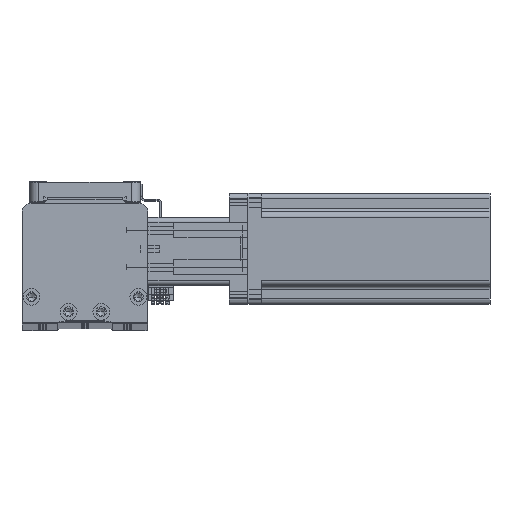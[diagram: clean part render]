
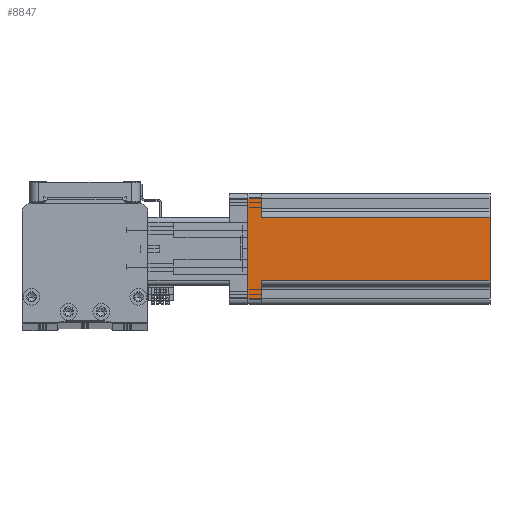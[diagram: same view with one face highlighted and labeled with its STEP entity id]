
A CAD part, top view. The second image highlights one B-rep face of the part: STEP entity #8847.
In plain terms, the highlighted planar face has unit normal (0, 0, 1) as drawn and (1, 0, 0) by its records, which use the part's own axes.
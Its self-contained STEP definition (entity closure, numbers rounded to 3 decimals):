
#1213 = CARTESIAN_POINT ( 'NONE',  ( 30., -30., 0. ) ) ;
#3141 = VECTOR ( 'NONE', #49851, 1000. ) ;
#3298 = CARTESIAN_POINT ( 'NONE',  ( 30., -30., 7.5 ) ) ;
#4570 = VECTOR ( 'NONE', #19850, 1000. ) ;
#4584 = CARTESIAN_POINT ( 'NONE',  ( 30., -27., 130.7 ) ) ;
#4736 = CARTESIAN_POINT ( 'NONE',  ( 30., 27., 7.5 ) ) ;
#7143 = VERTEX_POINT ( 'NONE', #32134 ) ;
#7639 = DIRECTION ( 'NONE',  ( 0., 0., 1. ) ) ;
#8506 = CARTESIAN_POINT ( 'NONE',  ( 30., 17., 130.7 ) ) ;
#8847 = ADVANCED_FACE ( 'NONE', ( #52300 ), #43239, .F. ) ;
#8853 = DIRECTION ( 'NONE',  ( 0., 0., -1. ) ) ;
#8953 = LINE ( 'NONE', #33434, #28713 ) ;
#9736 = EDGE_CURVE ( 'NONE', #7143, #10325, #43492, .T. ) ;
#10138 = VECTOR ( 'NONE', #22079, 1000. ) ;
#10325 = VERTEX_POINT ( 'NONE', #44583 ) ;
#11851 = ORIENTED_EDGE ( 'NONE', *, *, #19253, .T. ) ;
#12062 = ORIENTED_EDGE ( 'NONE', *, *, #54700, .F. ) ;
#13853 = ORIENTED_EDGE ( 'NONE', *, *, #9736, .T. ) ;
#14100 = CARTESIAN_POINT ( 'NONE',  ( 30., -30., 130.7 ) ) ;
#15612 = CARTESIAN_POINT ( 'NONE',  ( 30., 30., 7.5 ) ) ;
#15918 = CARTESIAN_POINT ( 'NONE',  ( 30., 17., 130.7 ) ) ;
#18335 = DIRECTION ( 'NONE',  ( 0., 0., 1. ) ) ;
#18526 = ORIENTED_EDGE ( 'NONE', *, *, #41191, .T. ) ;
#19253 = EDGE_CURVE ( 'NONE', #40033, #36970, #46671, .T. ) ;
#19850 = DIRECTION ( 'NONE',  ( 0., 1., 0. ) ) ;
#20674 = ORIENTED_EDGE ( 'NONE', *, *, #54060, .T. ) ;
#21023 = VECTOR ( 'NONE', #32821, 1000. ) ;
#22079 = DIRECTION ( 'NONE',  ( 0., 1., 0. ) ) ;
#24572 = CARTESIAN_POINT ( 'NONE',  ( 30., 27., 130.7 ) ) ;
#25284 = VECTOR ( 'NONE', #8853, 1000. ) ;
#25805 = ORIENTED_EDGE ( 'NONE', *, *, #31606, .F. ) ;
#26501 = DIRECTION ( 'NONE',  ( 0., 1., 0. ) ) ;
#27016 = LINE ( 'NONE', #15612, #4570 ) ;
#28713 = VECTOR ( 'NONE', #37701, 1000. ) ;
#31015 = ORIENTED_EDGE ( 'NONE', *, *, #54629, .T. ) ;
#31606 = EDGE_CURVE ( 'NONE', #44631, #36970, #27016, .T. ) ;
#32134 = CARTESIAN_POINT ( 'NONE',  ( 30., -17., 7.5 ) ) ;
#32632 = VERTEX_POINT ( 'NONE', #33110 ) ;
#32821 = DIRECTION ( 'NONE',  ( 0., -1., 0. ) ) ;
#33110 = CARTESIAN_POINT ( 'NONE',  ( 30., -17., 130.7 ) ) ;
#33434 = CARTESIAN_POINT ( 'NONE',  ( 30., -17., 7.5 ) ) ;
#34450 = CARTESIAN_POINT ( 'NONE',  ( 30., -27., 0. ) ) ;
#36323 = VERTEX_POINT ( 'NONE', #8506 ) ;
#36793 = AXIS2_PLACEMENT_3D ( 'NONE', #14100, #43606, #18335 ) ;
#36938 = LINE ( 'NONE', #1213, #48154 ) ;
#36970 = VERTEX_POINT ( 'NONE', #4736 ) ;
#37456 = CARTESIAN_POINT ( 'NONE',  ( 30., 27., 0. ) ) ;
#37701 = DIRECTION ( 'NONE',  ( 0., 0., -1. ) ) ;
#39847 = CARTESIAN_POINT ( 'NONE',  ( 30., 17., 7.5 ) ) ;
#40033 = VERTEX_POINT ( 'NONE', #37456 ) ;
#41191 = EDGE_CURVE ( 'NONE', #44631, #36323, #45140, .T. ) ;
#42500 = VECTOR ( 'NONE', #7639, 1000. ) ;
#43239 = PLANE ( 'NONE',  #36793 ) ;
#43330 = VERTEX_POINT ( 'NONE', #34450 ) ;
#43344 = ORIENTED_EDGE ( 'NONE', *, *, #50538, .T. ) ;
#43492 = LINE ( 'NONE', #3298, #21023 ) ;
#43606 = DIRECTION ( 'NONE',  ( -1., 0., 0. ) ) ;
#44231 = EDGE_LOOP ( 'NONE', ( #12062, #20674, #13853, #31015, #43344, #11851, #25805, #18526 ) ) ;
#44583 = CARTESIAN_POINT ( 'NONE',  ( 30., -27., 7.5 ) ) ;
#44631 = VERTEX_POINT ( 'NONE', #39847 ) ;
#45140 = LINE ( 'NONE', #15918, #42500 ) ;
#46671 = LINE ( 'NONE', #24572, #3141 ) ;
#47338 = CARTESIAN_POINT ( 'NONE',  ( 30., -30., 130.7 ) ) ;
#47731 = LINE ( 'NONE', #4584, #25284 ) ;
#48154 = VECTOR ( 'NONE', #26501, 1000. ) ;
#49686 = LINE ( 'NONE', #47338, #10138 ) ;
#49851 = DIRECTION ( 'NONE',  ( 0., 0., 1. ) ) ;
#50538 = EDGE_CURVE ( 'NONE', #43330, #40033, #36938, .T. ) ;
#52300 = FACE_OUTER_BOUND ( 'NONE', #44231, .T. ) ;
#54060 = EDGE_CURVE ( 'NONE', #32632, #7143, #8953, .T. ) ;
#54629 = EDGE_CURVE ( 'NONE', #10325, #43330, #47731, .T. ) ;
#54700 = EDGE_CURVE ( 'NONE', #32632, #36323, #49686, .T. ) ;
